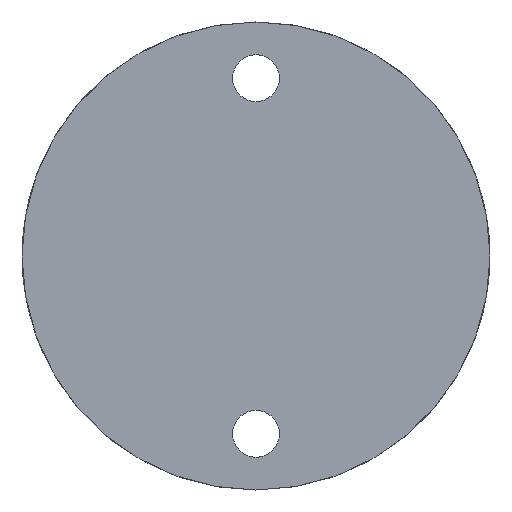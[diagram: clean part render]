
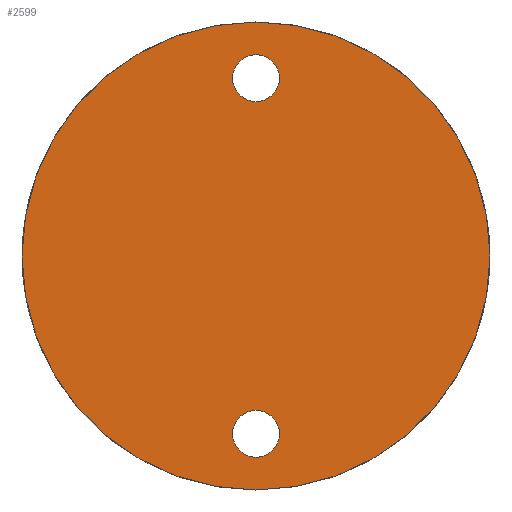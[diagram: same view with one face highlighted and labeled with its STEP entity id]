
A CAD part, front view. The second image highlights one B-rep face of the part: STEP entity #2599.
In plain terms, the highlighted planar face has unit normal (0, -1, 0).
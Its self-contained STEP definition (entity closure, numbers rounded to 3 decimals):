
#8 = EDGE_CURVE ( 'NONE', #454, #2673, #786, .T. ) ;
#268 = CIRCLE ( 'NONE', #3433, 6.25 ) ;
#377 = CARTESIAN_POINT ( 'NONE',  ( 62.495, -10., 0. ) ) ;
#454 = VERTEX_POINT ( 'NONE', #2642 ) ;
#482 = DIRECTION ( 'NONE',  ( 0., 1., 0. ) ) ;
#500 = DIRECTION ( 'NONE',  ( 0., -1., 0. ) ) ;
#601 = ORIENTED_EDGE ( 'NONE', *, *, #1893, .T. ) ;
#639 = ORIENTED_EDGE ( 'NONE', *, *, #3819, .T. ) ;
#784 = AXIS2_PLACEMENT_3D ( 'NONE', #1887, #3084, #3064 ) ;
#786 = CIRCLE ( 'NONE', #2343, 6.25 ) ;
#830 = CIRCLE ( 'NONE', #1719, 62.495 ) ;
#865 = DIRECTION ( 'NONE',  ( -1., 0., 0. ) ) ;
#977 = DIRECTION ( 'NONE',  ( 1., 0., 0. ) ) ;
#1123 = DIRECTION ( 'NONE',  ( -1., 0., 0. ) ) ;
#1249 = VERTEX_POINT ( 'NONE', #377 ) ;
#1290 = CIRCLE ( 'NONE', #1917, 62.495 ) ;
#1303 = CARTESIAN_POINT ( 'NONE',  ( -41.25, -10., 0. ) ) ;
#1316 = DIRECTION ( 'NONE',  ( 0., -1., 0. ) ) ;
#1338 = CARTESIAN_POINT ( 'NONE',  ( 0., -10., 0. ) ) ;
#1474 = CARTESIAN_POINT ( 'NONE',  ( -53.75, -10., 0. ) ) ;
#1490 = CIRCLE ( 'NONE', #3650, 6.25 ) ;
#1635 = EDGE_LOOP ( 'NONE', ( #3511, #1676 ) ) ;
#1676 = ORIENTED_EDGE ( 'NONE', *, *, #3688, .T. ) ;
#1719 = AXIS2_PLACEMENT_3D ( 'NONE', #2267, #2516, #977 ) ;
#1887 = CARTESIAN_POINT ( 'NONE',  ( -47.5, -10., 0. ) ) ;
#1893 = EDGE_CURVE ( 'NONE', #3199, #2265, #268, .T. ) ;
#1917 = AXIS2_PLACEMENT_3D ( 'NONE', #1338, #1316, #2537 ) ;
#1994 = CARTESIAN_POINT ( 'NONE',  ( 0., -10., 0. ) ) ;
#2012 = CARTESIAN_POINT ( 'NONE',  ( 47.5, -10., 0. ) ) ;
#2014 = ORIENTED_EDGE ( 'NONE', *, *, #2521, .T. ) ;
#2051 = FACE_BOUND ( 'NONE', #3483, .T. ) ;
#2265 = VERTEX_POINT ( 'NONE', #1474 ) ;
#2267 = CARTESIAN_POINT ( 'NONE',  ( 0., -10., 0. ) ) ;
#2343 = AXIS2_PLACEMENT_3D ( 'NONE', #3152, #482, #3166 ) ;
#2355 = DIRECTION ( 'NONE',  ( 0., 1., 0. ) ) ;
#2422 = VERTEX_POINT ( 'NONE', #2741 ) ;
#2516 = DIRECTION ( 'NONE',  ( 0., -1., 0. ) ) ;
#2521 = EDGE_CURVE ( 'NONE', #2265, #3199, #3134, .T. ) ;
#2537 = DIRECTION ( 'NONE',  ( 1., 0., 0. ) ) ;
#2541 = EDGE_CURVE ( 'NONE', #2422, #1249, #830, .T. ) ;
#2599 = ADVANCED_FACE ( 'NONE', ( #2051, #2879, #3488 ), #3437, .T. ) ;
#2636 = DIRECTION ( 'NONE',  ( 0., 1., 0. ) ) ;
#2642 = CARTESIAN_POINT ( 'NONE',  ( 41.25, -10., 0. ) ) ;
#2673 = VERTEX_POINT ( 'NONE', #2928 ) ;
#2736 = EDGE_LOOP ( 'NONE', ( #2787, #639 ) ) ;
#2741 = CARTESIAN_POINT ( 'NONE',  ( -62.495, -10., 0. ) ) ;
#2787 = ORIENTED_EDGE ( 'NONE', *, *, #8, .T. ) ;
#2879 = FACE_BOUND ( 'NONE', #2736, .T. ) ;
#2928 = CARTESIAN_POINT ( 'NONE',  ( 53.75, -10., 0. ) ) ;
#3064 = DIRECTION ( 'NONE',  ( -1., 0., 0. ) ) ;
#3084 = DIRECTION ( 'NONE',  ( 0., 1., 0. ) ) ;
#3134 = CIRCLE ( 'NONE', #784, 6.25 ) ;
#3152 = CARTESIAN_POINT ( 'NONE',  ( 47.5, -10., 0. ) ) ;
#3166 = DIRECTION ( 'NONE',  ( -1., 0., 0. ) ) ;
#3168 = DIRECTION ( 'NONE',  ( 1., 0., 0. ) ) ;
#3199 = VERTEX_POINT ( 'NONE', #1303 ) ;
#3249 = AXIS2_PLACEMENT_3D ( 'NONE', #1994, #500, #3168 ) ;
#3433 = AXIS2_PLACEMENT_3D ( 'NONE', #3525, #2636, #865 ) ;
#3437 = PLANE ( 'NONE',  #3249 ) ;
#3483 = EDGE_LOOP ( 'NONE', ( #2014, #601 ) ) ;
#3488 = FACE_OUTER_BOUND ( 'NONE', #1635, .T. ) ;
#3511 = ORIENTED_EDGE ( 'NONE', *, *, #2541, .T. ) ;
#3525 = CARTESIAN_POINT ( 'NONE',  ( -47.5, -10., 0. ) ) ;
#3650 = AXIS2_PLACEMENT_3D ( 'NONE', #2012, #2355, #1123 ) ;
#3688 = EDGE_CURVE ( 'NONE', #1249, #2422, #1290, .T. ) ;
#3819 = EDGE_CURVE ( 'NONE', #2673, #454, #1490, .T. ) ;
